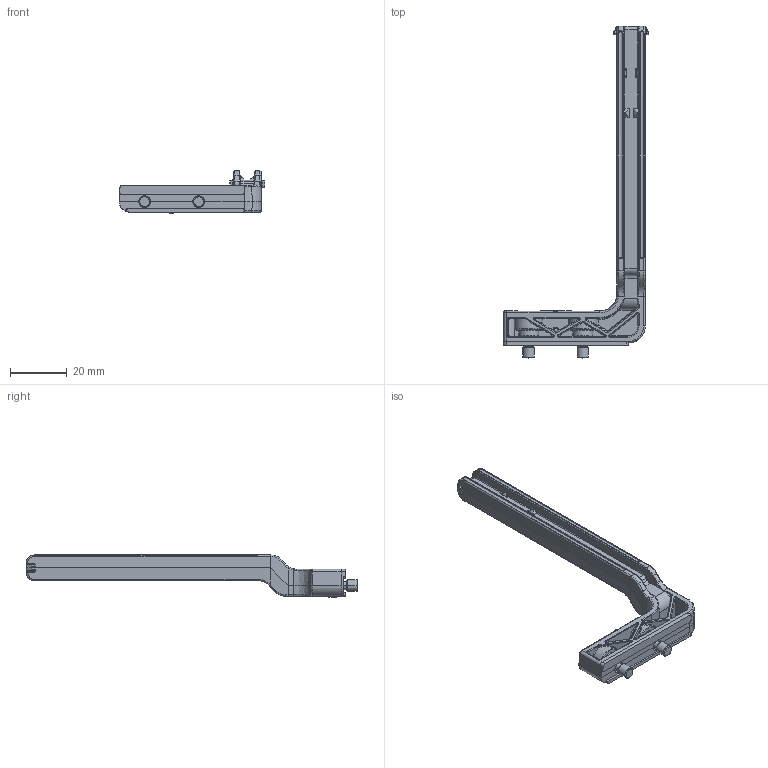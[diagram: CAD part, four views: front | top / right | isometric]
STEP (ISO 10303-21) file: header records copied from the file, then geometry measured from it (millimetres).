
FILE_DESCRIPTION (( 'STEP AP203' ), '1' );
FILE_NAME ('00030518 - PLASTIC FINGER WITH CAPTIVE SCREWS.step', '2013-04-05T16:25:14', ( '' ), ( '' ), 'SwSTEP 2.0', 'SolidWorks 2012', '' );
FILE_SCHEMA (( 'CONFIG_CONTROL_DESIGN' ));
Length unit declared in the file: millimetre
Products named in the file (1): 00030518 - PLASTIC FINGER WITH CAPTIVE SCREWS
Bounding box: 51.15 x 116.5 x 14.75 mm (x, y, z)
Surface area: 8928.5 mm2 (no closed solid volume)
Topology: 0 solids, 5 shells, 682 faces, 1849 edges, 1089 vertices
Faces by surface type: cylinder 295, bspline 183, plane 135, torus 24, sphere 23, cone 22
Entity records: 24969 total; most frequent: CARTESIAN_POINT 10155, ORIENTED_EDGE 3248, DIRECTION 2781, EDGE_CURVE 1828, VERTEX_POINT 1089, AXIS2_PLACEMENT_3D 1033, LINE 715, VECTOR 715
